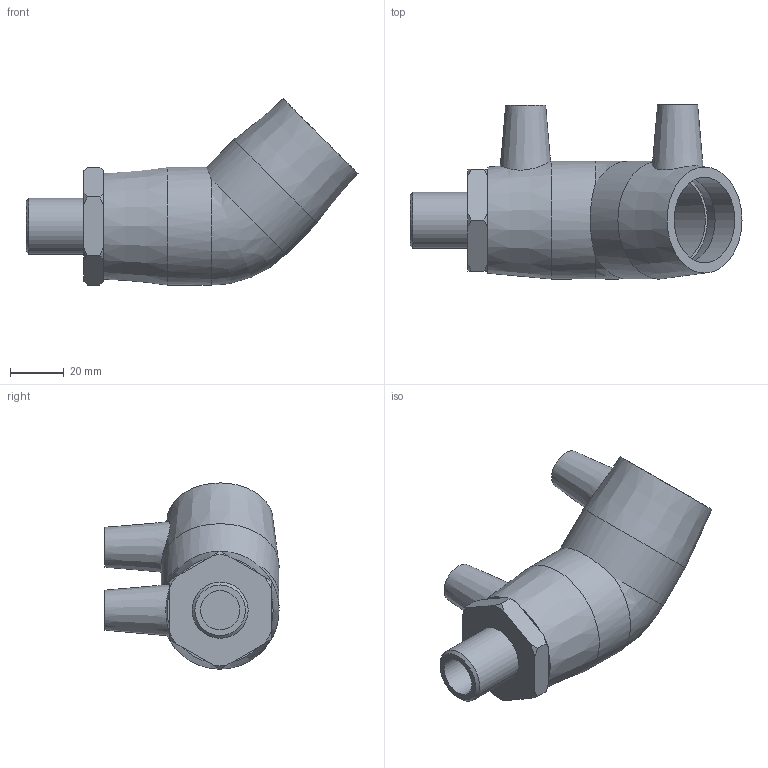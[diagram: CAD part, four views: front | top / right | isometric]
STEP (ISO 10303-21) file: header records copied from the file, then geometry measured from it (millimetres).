
FILE_DESCRIPTION(/* description */ ('PLASSON 45° ELBOW TRANSITION MALE 32-1/2"'),/* implementation_level */ '2;1');
FILE_NAME(/* name */ 'C:\Dropbox\KIMPROJECTS-Inventor\99-16-3568-Processing\ElectroFusion Fittings\02.02.20\492604\492604032005.ipt.stp',/* time_stamp */ '2020-02-02T12:19:49+02:00',/* author */ ('KIM'),/* organization */ (''),/* preprocessor_version */ 'ST-DEVELOPER v15.6',/* originating_system */ 'Autodesk Inventor 2015',/* authorisation */ '');
FILE_SCHEMA (('AUTOMOTIVE_DESIGN { 1 0 10303 214 3 1 1 }'));
Length unit declared in the file: millimetre
Products named in the file (1): 492604032005
Bounding box: 124 x 65 x 69.55 mm (x, y, z)
Volume: 106631.3 mm3; surface area: 31928.3 mm2
Topology: 1 solids, 2 shells, 59 faces, 133 edges, 88 vertices
Faces by surface type: plane 24, cone 19, cylinder 15, bspline 1
Full cylindrical faces by diameter (mm): 4 x2, 10 x2, 14.668 x1, 20.8 x2, 20.955 x1, 23 x1, 32 x4, 44 x2
Entity records: 1500 total; most frequent: CARTESIAN_POINT 369, DIRECTION 236, ORIENTED_EDGE 188, AXIS2_PLACEMENT_3D 109, EDGE_LOOP 97, EDGE_CURVE 94, VERTEX_POINT 75, FACE_OUTER_BOUND 59
